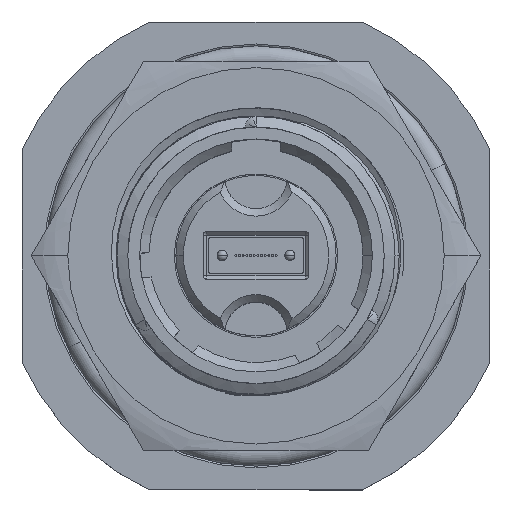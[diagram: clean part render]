
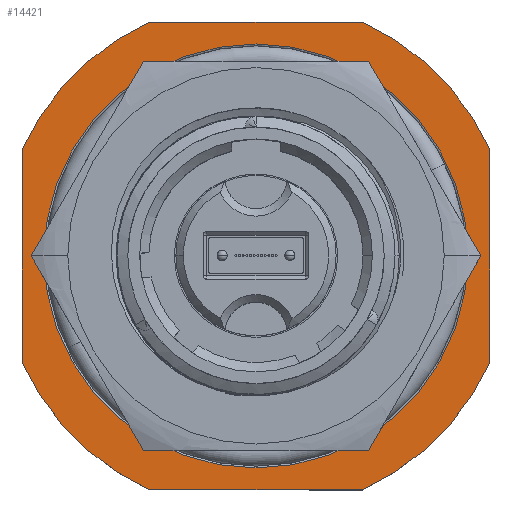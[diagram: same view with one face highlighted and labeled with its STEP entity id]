
A CAD part, top view. The second image highlights one B-rep face of the part: STEP entity #14421.
In plain terms, the highlighted planar face has unit normal (0, 0, 1).
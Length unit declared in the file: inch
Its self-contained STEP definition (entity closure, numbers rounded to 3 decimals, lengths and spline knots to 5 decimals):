
#53 = CARTESIAN_POINT ( 'NONE',  ( 0.5672, 0., -0.915 ) ) ;
#332 = CIRCLE ( 'NONE', #10148, 0.6875 ) ;
#510 = DIRECTION ( 'NONE',  ( 0., -1., 0. ) ) ;
#626 = CARTESIAN_POINT ( 'NONE',  ( 0.28422, -0.626, -0.915 ) ) ;
#910 = DIRECTION ( 'NONE',  ( 0., 0., -1. ) ) ;
#1534 = ORIENTED_EDGE ( 'NONE', *, *, #11002, .F. ) ;
#1607 = ORIENTED_EDGE ( 'NONE', *, *, #17998, .F. ) ;
#1887 = VECTOR ( 'NONE', #5330, 39.37008 ) ;
#2200 = VERTEX_POINT ( 'NONE', #626 ) ;
#2293 = ORIENTED_EDGE ( 'NONE', *, *, #20271, .T. ) ;
#2407 = CARTESIAN_POINT ( 'NONE',  ( 0.626, -0.28422, -0.915 ) ) ;
#2718 = CARTESIAN_POINT ( 'NONE',  ( 0., 0., -0.915 ) ) ;
#3023 = DIRECTION ( 'NONE',  ( 0., 0., -1. ) ) ;
#3193 = DIRECTION ( 'NONE',  ( -1., 0., 0. ) ) ;
#3195 = DIRECTION ( 'NONE',  ( 0., 0., -1. ) ) ;
#3276 = EDGE_CURVE ( 'NONE', #15105, #18186, #14682, .T. ) ;
#3285 = ORIENTED_EDGE ( 'NONE', *, *, #18507, .F. ) ;
#3653 = DIRECTION ( 'NONE',  ( -1., 0., 0. ) ) ;
#3831 = CIRCLE ( 'NONE', #16344, 0.6875 ) ;
#3870 = CARTESIAN_POINT ( 'NONE',  ( 0., 0., -0.915 ) ) ;
#4378 = LINE ( 'NONE', #17315, #5565 ) ;
#4595 = ORIENTED_EDGE ( 'NONE', *, *, #12082, .F. ) ;
#5094 = VECTOR ( 'NONE', #14811, 39.37008 ) ;
#5219 = AXIS2_PLACEMENT_3D ( 'NONE', #7956, #17525, #8253 ) ;
#5235 = PLANE ( 'NONE',  #12959 ) ;
#5330 = DIRECTION ( 'NONE',  ( 0., 1., 0. ) ) ;
#5523 = ORIENTED_EDGE ( 'NONE', *, *, #6301, .T. ) ;
#5565 = VECTOR ( 'NONE', #5745, 39.37008 ) ;
#5745 = DIRECTION ( 'NONE',  ( 1., 0., 0. ) ) ;
#6160 = EDGE_CURVE ( 'NONE', #7414, #11912, #4378, .T. ) ;
#6280 = EDGE_CURVE ( 'NONE', #18186, #7414, #13003, .T. ) ;
#6301 = EDGE_CURVE ( 'NONE', #12629, #18897, #14389, .T. ) ;
#6457 = ORIENTED_EDGE ( 'NONE', *, *, #6280, .F. ) ;
#7307 = CARTESIAN_POINT ( 'NONE',  ( -0.5672, 0., -0.915 ) ) ;
#7414 = VERTEX_POINT ( 'NONE', #20156 ) ;
#7956 = CARTESIAN_POINT ( 'NONE',  ( 0., 0., -0.915 ) ) ;
#8065 = VERTEX_POINT ( 'NONE', #20449 ) ;
#8253 = DIRECTION ( 'NONE',  ( -1., 0., 0. ) ) ;
#8395 = AXIS2_PLACEMENT_3D ( 'NONE', #19218, #13035, #3193 ) ;
#8524 = AXIS2_PLACEMENT_3D ( 'NONE', #20345, #10153, #13666 ) ;
#8942 = AXIS2_PLACEMENT_3D ( 'NONE', #11254, #3195, #11154 ) ;
#9079 = CARTESIAN_POINT ( 'NONE',  ( -0.626, 0.28422, -0.915 ) ) ;
#9448 = ORIENTED_EDGE ( 'NONE', *, *, #6160, .F. ) ;
#10071 = VERTEX_POINT ( 'NONE', #12036 ) ;
#10148 = AXIS2_PLACEMENT_3D ( 'NONE', #2718, #3023, #20739 ) ;
#10153 = DIRECTION ( 'NONE',  ( 0., 0., -1. ) ) ;
#10173 = ORIENTED_EDGE ( 'NONE', *, *, #13762, .F. ) ;
#10219 = DIRECTION ( 'NONE',  ( 0., 0., -1. ) ) ;
#11002 = EDGE_CURVE ( 'NONE', #8065, #20898, #14918, .T. ) ;
#11154 = DIRECTION ( 'NONE',  ( -1., 0., 0. ) ) ;
#11254 = CARTESIAN_POINT ( 'NONE',  ( 0., 0., -0.915 ) ) ;
#11912 = VERTEX_POINT ( 'NONE', #20700 ) ;
#12036 = CARTESIAN_POINT ( 'NONE',  ( -0.28422, -0.626, -0.915 ) ) ;
#12082 = EDGE_CURVE ( 'NONE', #11912, #8065, #3831, .T. ) ;
#12352 = CARTESIAN_POINT ( 'NONE',  ( 0., 0., -0.915 ) ) ;
#12441 = ORIENTED_EDGE ( 'NONE', *, *, #3276, .F. ) ;
#12629 = VERTEX_POINT ( 'NONE', #7307 ) ;
#12959 = AXIS2_PLACEMENT_3D ( 'NONE', #3870, #10219, #3653 ) ;
#13003 = CIRCLE ( 'NONE', #8942, 0.6875 ) ;
#13034 = CARTESIAN_POINT ( 'NONE',  ( -0.626, -0.28422, -0.915 ) ) ;
#13035 = DIRECTION ( 'NONE',  ( 0., 0., -1. ) ) ;
#13666 = DIRECTION ( 'NONE',  ( -1., 0., 0. ) ) ;
#13725 = FACE_BOUND ( 'NONE', #15835, .T. ) ;
#13762 = EDGE_CURVE ( 'NONE', #10071, #15105, #16009, .T. ) ;
#13834 = DIRECTION ( 'NONE',  ( -1., 0., 0. ) ) ;
#13924 = VECTOR ( 'NONE', #510, 39.37008 ) ;
#14389 = CIRCLE ( 'NONE', #5219, 0.5672 ) ;
#14421 = ADVANCED_FACE ( 'NONE', ( #13725, #16907 ), #5235, .F. ) ;
#14682 = LINE ( 'NONE', #17969, #1887 ) ;
#14811 = DIRECTION ( 'NONE',  ( -1., 0., 0. ) ) ;
#14918 = LINE ( 'NONE', #15231, #13924 ) ;
#15105 = VERTEX_POINT ( 'NONE', #13034 ) ;
#15231 = CARTESIAN_POINT ( 'NONE',  ( 0.626, 0.28422, -0.915 ) ) ;
#15835 = EDGE_LOOP ( 'NONE', ( #5523, #2293 ) ) ;
#16009 = CIRCLE ( 'NONE', #8524, 0.6875 ) ;
#16046 = EDGE_LOOP ( 'NONE', ( #6457, #12441, #10173, #3285, #1607, #1534, #4595, #9448 ) ) ;
#16344 = AXIS2_PLACEMENT_3D ( 'NONE', #12352, #910, #13834 ) ;
#16907 = FACE_OUTER_BOUND ( 'NONE', #16046, .T. ) ;
#17315 = CARTESIAN_POINT ( 'NONE',  ( 0.28422, 0.626, -0.915 ) ) ;
#17525 = DIRECTION ( 'NONE',  ( 0., 0., -1. ) ) ;
#17969 = CARTESIAN_POINT ( 'NONE',  ( -0.626, 0.28422, -0.915 ) ) ;
#17998 = EDGE_CURVE ( 'NONE', #20898, #2200, #332, .T. ) ;
#18186 = VERTEX_POINT ( 'NONE', #9079 ) ;
#18507 = EDGE_CURVE ( 'NONE', #2200, #10071, #19188, .T. ) ;
#18897 = VERTEX_POINT ( 'NONE', #53 ) ;
#19188 = LINE ( 'NONE', #19387, #5094 ) ;
#19218 = CARTESIAN_POINT ( 'NONE',  ( 0., 0., -0.915 ) ) ;
#19387 = CARTESIAN_POINT ( 'NONE',  ( 0.28422, -0.626, -0.915 ) ) ;
#19596 = CIRCLE ( 'NONE', #8395, 0.5672 ) ;
#20156 = CARTESIAN_POINT ( 'NONE',  ( -0.28422, 0.626, -0.915 ) ) ;
#20271 = EDGE_CURVE ( 'NONE', #18897, #12629, #19596, .T. ) ;
#20345 = CARTESIAN_POINT ( 'NONE',  ( 0., 0., -0.915 ) ) ;
#20449 = CARTESIAN_POINT ( 'NONE',  ( 0.626, 0.28422, -0.915 ) ) ;
#20700 = CARTESIAN_POINT ( 'NONE',  ( 0.28422, 0.626, -0.915 ) ) ;
#20739 = DIRECTION ( 'NONE',  ( -1., 0., 0. ) ) ;
#20898 = VERTEX_POINT ( 'NONE', #2407 ) ;
